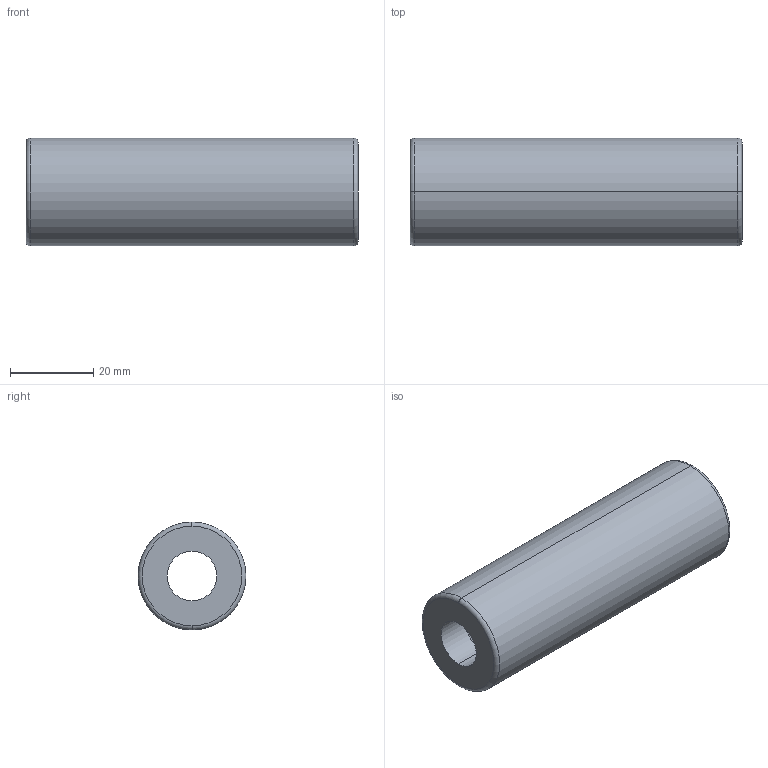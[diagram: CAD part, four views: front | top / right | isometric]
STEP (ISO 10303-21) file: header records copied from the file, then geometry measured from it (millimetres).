
FILE_DESCRIPTION (( 'STEP AP214' ), '1' );
FILE_NAME ('BR20 26x080.STEP', '2020-01-21T11:28:52', ( 'August' ), ( '' ), 'SwSTEP 2.0', 'SolidWorks 2018', '' );
FILE_SCHEMA (( 'AUTOMOTIVE_DESIGN' ));
Length unit declared in the file: millimetre
Products named in the file (1): BR20 26x080
Bounding box: 80 x 26 x 26 mm (x, y, z)
Volume: 14898.6 mm3; surface area: 12342.1 mm2
Topology: 1 solids, 1 shells, 14 faces, 28 edges, 16 vertices
Faces by surface type: cylinder 6, torus 4, cone 2, plane 2
Entity records: 406 total; most frequent: DIRECTION 78, CARTESIAN_POINT 59, ORIENTED_EDGE 56, AXIS2_PLACEMENT_3D 35, EDGE_CURVE 28, CIRCLE 20, EDGE_LOOP 16, VERTEX_POINT 16
